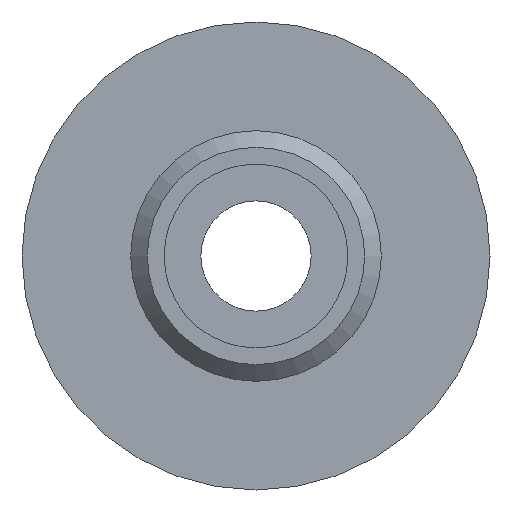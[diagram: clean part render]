
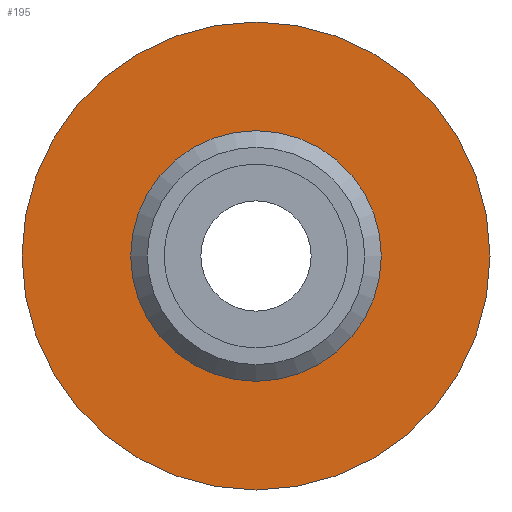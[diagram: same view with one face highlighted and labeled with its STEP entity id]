
A CAD part, left-side view. The second image highlights one B-rep face of the part: STEP entity #195.
In plain terms, the highlighted planar face has unit normal (-1, 0, 0).
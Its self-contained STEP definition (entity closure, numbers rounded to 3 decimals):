
#42=FACE_BOUND('',#72,.T.);
#55=FACE_OUTER_BOUND('',#71,.T.);
#71=EDGE_LOOP('',(#175));
#72=EDGE_LOOP('',(#176));
#87=CIRCLE('',#241,7.5);
#90=CIRCLE('',#246,14.);
#103=VERTEX_POINT('',#356);
#106=VERTEX_POINT('',#366);
#124=EDGE_CURVE('',#103,#103,#87,.T.);
#130=EDGE_CURVE('',#106,#106,#90,.T.);
#175=ORIENTED_EDGE('',*,*,#130,.F.);
#176=ORIENTED_EDGE('',*,*,#124,.T.);
#182=PLANE('',#247);
#195=ADVANCED_FACE('',(#55,#42),#182,.T.);
#241=AXIS2_PLACEMENT_3D('',#357,#298,#299);
#246=AXIS2_PLACEMENT_3D('',#368,#311,#312);
#247=AXIS2_PLACEMENT_3D('',#369,#313,#314);
#298=DIRECTION('center_axis',(1.,0.,0.));
#299=DIRECTION('ref_axis',(0.,0.,-1.));
#311=DIRECTION('center_axis',(1.,0.,0.));
#312=DIRECTION('ref_axis',(0.,0.,-1.));
#313=DIRECTION('center_axis',(-1.,0.,0.));
#314=DIRECTION('ref_axis',(0.,0.,1.));
#356=CARTESIAN_POINT('',(4.,-7.5,0.));
#357=CARTESIAN_POINT('Origin',(4.,0.,0.));
#366=CARTESIAN_POINT('',(4.,-14.,0.));
#368=CARTESIAN_POINT('Origin',(4.,0.,0.));
#369=CARTESIAN_POINT('Origin',(4.,14.,0.));
